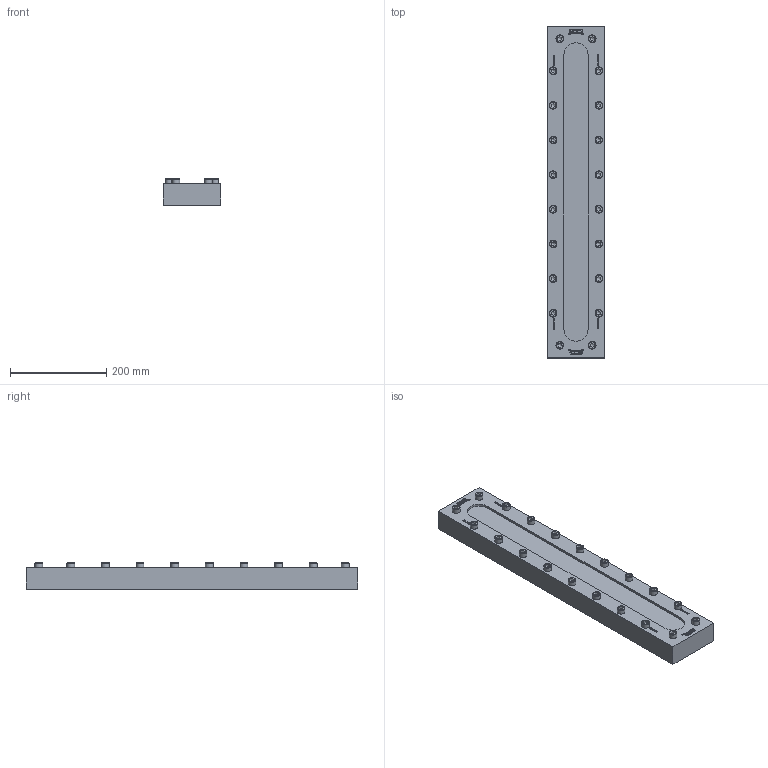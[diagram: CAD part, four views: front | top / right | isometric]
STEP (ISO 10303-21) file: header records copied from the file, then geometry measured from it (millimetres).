
FILE_DESCRIPTION(/* description */ (''),/* implementation_level */ '2;1');
FILE_NAME(/* name */ 'W:\Konstruktion_ACI\334\_Zeichnungen\STEP\ACI-334-690-3.stp',/* time_stamp */ '2022-03-02T16:58:16+01:00',/* author */ ('Travnicek'),/* organization */ ('ACI Industriearmaturen'),/* preprocessor_version */ 'ST-DEVELOPER v16.1',/* originating_system */ 'Autodesk Inventor 2016',/* authorisation */ '');
FILE_SCHEMA (('AUTOMOTIVE_DESIGN { 1 0 10303 214 3 1 1 }'));
Length unit declared in the file: centimetre
Products named in the file (1): 334
Bounding box: 120 x 690 x 54.96 mm (x, y, z)
Volume: 3030706.1 mm3; surface area: 283501.7 mm2
Topology: 1 solids, 1 shells, 1418 faces, 3880 edges, 2580 vertices
Faces by surface type: plane 982, bspline 372, cylinder 24, torus 20, cone 20
Full cylindrical faces by diameter (mm): 16 x20
Entity records: 46758 total; most frequent: CARTESIAN_POINT 12815, ORIENTED_EDGE 7560, DIRECTION 5078, EDGE_CURVE 3780, LINE 2848, VECTOR 2848, VERTEX_POINT 2540, EDGE_LOOP 1594
